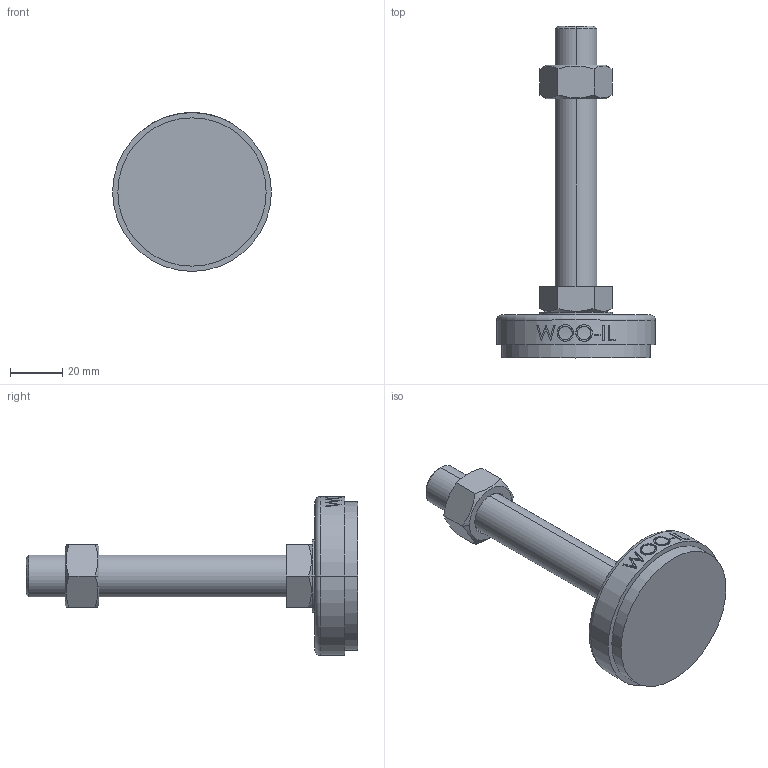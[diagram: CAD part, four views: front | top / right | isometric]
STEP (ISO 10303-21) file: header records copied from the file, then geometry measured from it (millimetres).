
FILE_DESCRIPTION (( 'STEP AP214' ), '1' );
FILE_NAME ('NS61-M16-100.step', '2021-01-11T05:45:31', ( '' ), ( '' ), 'SwSTEP 2.0', 'SolidWorks 2019', '' );
FILE_SCHEMA (( 'AUTOMOTIVE_DESIGN' ));
Length unit declared in the file: millimetre
Products named in the file (2): NS61-M16-100
Bounding box: 61 x 127.5 x 61 mm (x, y, z)
Volume: 75617.7 mm3; surface area: 17880.9 mm2
Topology: 3 solids, 3 shells, 96 faces, 223 edges, 144 vertices
Faces by surface type: plane 48, cylinder 18, bspline 16, cone 12, torus 2
Entity records: 4252 total; most frequent: CARTESIAN_POINT 2127, ORIENTED_EDGE 446, DIRECTION 381, EDGE_CURVE 223, VERTEX_POINT 144, AXIS2_PLACEMENT_3D 142, EDGE_LOOP 109, LINE 97
